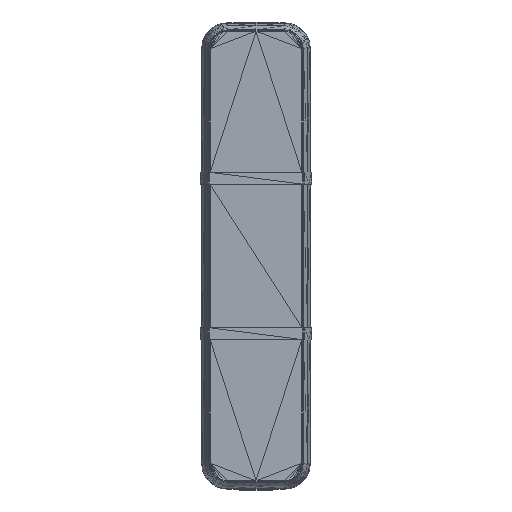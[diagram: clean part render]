
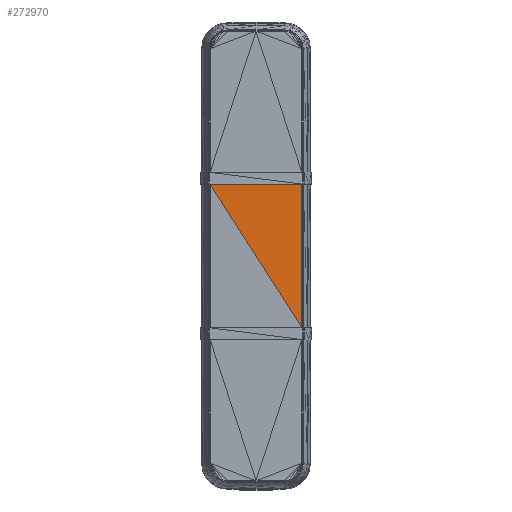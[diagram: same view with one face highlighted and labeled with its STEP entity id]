
A CAD part, top view. The second image highlights one B-rep face of the part: STEP entity #272970.
In plain terms, the highlighted planar face has unit normal (0, 0, 1).
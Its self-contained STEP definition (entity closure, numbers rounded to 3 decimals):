
#272863 = VERTEX_POINT('',#272864);
#272864 = CARTESIAN_POINT('',(399.97,590.,65.5));
#272878 = PLANE('',#272879);
#272879 = AXIS2_PLACEMENT_3D('',#272880,#272881,#272882);
#272880 = CARTESIAN_POINT('',(400.129,451.34,
    65.483));
#272881 = DIRECTION('',(0.106,0.,0.994)
  );
#272882 = DIRECTION('',(0.994,0.,-0.106));
#272919 = VERTEX_POINT('',#272920);
#272920 = CARTESIAN_POINT('',(399.97,313.,65.5));
#272946 = EDGE_CURVE('',#272863,#272919,#272947,.T.);
#272947 = SURFACE_CURVE('',#272948,(#272952,#272959),.PCURVE_S1.);
#272948 = LINE('',#272949,#272950);
#272949 = CARTESIAN_POINT('',(399.97,590.,65.5));
#272950 = VECTOR('',#272951,1.);
#272951 = DIRECTION('',(0.,-1.,0.));
#272952 = PCURVE('',#272878,#272953);
#272953 = DEFINITIONAL_REPRESENTATION('',(#272954),#272958);
#272954 = LINE('',#272955,#272956);
#272955 = CARTESIAN_POINT('',(-0.16,138.659));
#272956 = VECTOR('',#272957,1.);
#272957 = DIRECTION('',(0.,-1.));
#272958 = ( GEOMETRIC_REPRESENTATION_CONTEXT(2) 
PARAMETRIC_REPRESENTATION_CONTEXT() REPRESENTATION_CONTEXT('2D SPACE',''
  ) );
#272959 = PCURVE('',#272960,#272965);
#272960 = PLANE('',#272961);
#272961 = AXIS2_PLACEMENT_3D('',#272962,#272963,#272964);
#272962 = CARTESIAN_POINT('',(342.723,482.839,65.5));
#272963 = DIRECTION('',(0.,0.,1.));
#272964 = DIRECTION('',(1.,0.,0.));
#272965 = DEFINITIONAL_REPRESENTATION('',(#272966),#272969);
#272966 = B_SPLINE_CURVE_WITH_KNOTS('',1,(#272967,#272968),
  .UNSPECIFIED.,.F.,.F.,(2,2),(0.,277.),
  .PIECEWISE_BEZIER_KNOTS.);
#272967 = CARTESIAN_POINT('',(57.247,107.161));
#272968 = CARTESIAN_POINT('',(57.247,-169.84));
#272969 = ( GEOMETRIC_REPRESENTATION_CONTEXT(2) 
PARAMETRIC_REPRESENTATION_CONTEXT() REPRESENTATION_CONTEXT('2D SPACE',''
  ) );
#272970 = ADVANCED_FACE('',(#272971),#272960,.T.);
#272971 = FACE_BOUND('',#272972,.T.);
#272972 = EDGE_LOOP('',(#272973,#272974,#273001));
#272973 = ORIENTED_EDGE('',*,*,#272946,.F.);
#272974 = ORIENTED_EDGE('',*,*,#272975,.T.);
#272975 = EDGE_CURVE('',#272863,#272976,#272978,.T.);
#272976 = VERTEX_POINT('',#272977);
#272977 = CARTESIAN_POINT('',(222.797,590.,65.5));
#272978 = SURFACE_CURVE('',#272979,(#272983,#272990),.PCURVE_S1.);
#272979 = LINE('',#272980,#272981);
#272980 = CARTESIAN_POINT('',(399.97,590.,65.5));
#272981 = VECTOR('',#272982,1.);
#272982 = DIRECTION('',(-1.,0.,0.));
#272983 = PCURVE('',#272960,#272984);
#272984 = DEFINITIONAL_REPRESENTATION('',(#272985),#272989);
#272985 = LINE('',#272986,#272987);
#272986 = CARTESIAN_POINT('',(57.247,107.161));
#272987 = VECTOR('',#272988,1.);
#272988 = DIRECTION('',(-1.,0.));
#272989 = ( GEOMETRIC_REPRESENTATION_CONTEXT(2) 
PARAMETRIC_REPRESENTATION_CONTEXT() REPRESENTATION_CONTEXT('2D SPACE',''
  ) );
#272990 = PCURVE('',#272991,#272996);
#272991 = PLANE('',#272992);
#272992 = AXIS2_PLACEMENT_3D('',#272993,#272994,#272995);
#272993 = CARTESIAN_POINT('',(310.004,590.,
    66.262));
#272994 = DIRECTION('',(0.,-1.,0.));
#272995 = DIRECTION('',(0.,0.,-1.));
#272996 = DEFINITIONAL_REPRESENTATION('',(#272997),#273000);
#272997 = B_SPLINE_CURVE_WITH_KNOTS('',1,(#272998,#272999),
  .UNSPECIFIED.,.F.,.F.,(2,2),(0.,177.173),
  .PIECEWISE_BEZIER_KNOTS.);
#272998 = CARTESIAN_POINT('',(0.762,89.967));
#272999 = CARTESIAN_POINT('',(0.762,-87.206));
#273000 = ( GEOMETRIC_REPRESENTATION_CONTEXT(2) 
PARAMETRIC_REPRESENTATION_CONTEXT() REPRESENTATION_CONTEXT('2D SPACE',''
  ) );
#273001 = ORIENTED_EDGE('',*,*,#273002,.T.);
#273002 = EDGE_CURVE('',#272976,#272919,#273003,.T.);
#273003 = SURFACE_CURVE('',#273004,(#273008,#273015),.PCURVE_S1.);
#273004 = LINE('',#273005,#273006);
#273005 = CARTESIAN_POINT('',(222.797,590.,65.5));
#273006 = VECTOR('',#273007,1.);
#273007 = DIRECTION('',(0.539,-0.842,0.));
#273008 = PCURVE('',#272960,#273009);
#273009 = DEFINITIONAL_REPRESENTATION('',(#273010),#273014);
#273010 = LINE('',#273011,#273012);
#273011 = CARTESIAN_POINT('',(-119.926,107.161));
#273012 = VECTOR('',#273013,1.);
#273013 = DIRECTION('',(0.539,-0.842));
#273014 = ( GEOMETRIC_REPRESENTATION_CONTEXT(2) 
PARAMETRIC_REPRESENTATION_CONTEXT() REPRESENTATION_CONTEXT('2D SPACE',''
  ) );
#273015 = PCURVE('',#273016,#273021);
#273016 = PLANE('',#273017);
#273017 = AXIS2_PLACEMENT_3D('',#273018,#273019,#273020);
#273018 = CARTESIAN_POINT('',(280.044,420.16,65.5));
#273019 = DIRECTION('',(0.,0.,1.));
#273020 = DIRECTION('',(1.,0.,0.));
#273021 = DEFINITIONAL_REPRESENTATION('',(#273022),#273025);
#273022 = B_SPLINE_CURVE_WITH_KNOTS('',1,(#273023,#273024),
  .UNSPECIFIED.,.F.,.F.,(2,2),(0.,328.815),
  .PIECEWISE_BEZIER_KNOTS.);
#273023 = CARTESIAN_POINT('',(-57.247,169.84));
#273024 = CARTESIAN_POINT('',(119.926,-107.161));
#273025 = ( GEOMETRIC_REPRESENTATION_CONTEXT(2) 
PARAMETRIC_REPRESENTATION_CONTEXT() REPRESENTATION_CONTEXT('2D SPACE',''
  ) );
